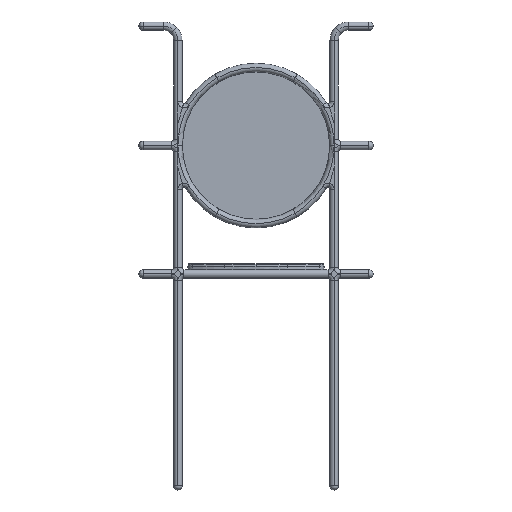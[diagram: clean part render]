
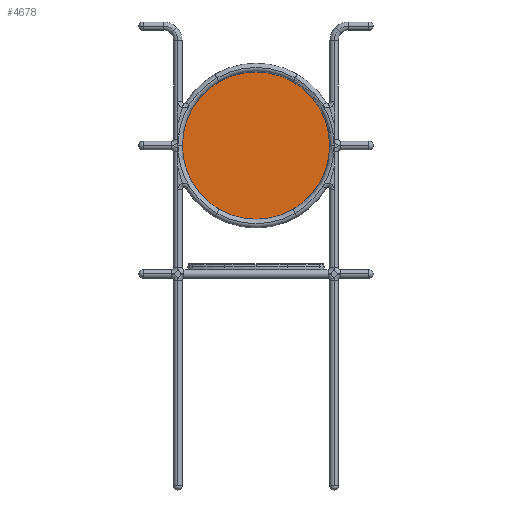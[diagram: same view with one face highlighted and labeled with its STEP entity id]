
A CAD part, top view. The second image highlights one B-rep face of the part: STEP entity #4678.
In plain terms, the highlighted planar face has unit normal (0, 0, 1).
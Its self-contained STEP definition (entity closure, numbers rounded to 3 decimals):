
#1037 = CARTESIAN_POINT ( 'NONE',  ( 0., 1435., 176.52 ) ) ;
#1252 = EDGE_LOOP ( 'NONE', ( #2636, #2317 ) ) ;
#1484 = CARTESIAN_POINT ( 'NONE',  ( -306.793, 1435., 176.52 ) ) ;
#1575 = DIRECTION ( 'NONE',  ( 1., 0., 0. ) ) ;
#2317 = ORIENTED_EDGE ( 'NONE', *, *, #10265, .T. ) ;
#2390 = DIRECTION ( 'NONE',  ( 0., 0., 1. ) ) ;
#2551 = CARTESIAN_POINT ( 'NONE',  ( 0., 1435., 176.52 ) ) ;
#2636 = ORIENTED_EDGE ( 'NONE', *, *, #5139, .T. ) ;
#3047 = CIRCLE ( 'NONE', #11068, 306.793 ) ;
#3413 = AXIS2_PLACEMENT_3D ( 'NONE', #11102, #2390, #9445 ) ;
#3451 = AXIS2_PLACEMENT_3D ( 'NONE', #2551, #10430, #1575 ) ;
#4134 = CARTESIAN_POINT ( 'NONE',  ( 306.793, 1435., 176.52 ) ) ;
#4678 = ADVANCED_FACE ( 'NONE', ( #11157 ), #8620, .T. ) ;
#5139 = EDGE_CURVE ( 'NONE', #6957, #9704, #3047, .T. ) ;
#6957 = VERTEX_POINT ( 'NONE', #1484 ) ;
#6985 = CIRCLE ( 'NONE', #3451, 306.793 ) ;
#7198 = DIRECTION ( 'NONE',  ( 0., 0., 1. ) ) ;
#8620 = PLANE ( 'NONE',  #3413 ) ;
#9445 = DIRECTION ( 'NONE',  ( 1., 0., 0. ) ) ;
#9704 = VERTEX_POINT ( 'NONE', #4134 ) ;
#9778 = DIRECTION ( 'NONE',  ( 1., 0., 0. ) ) ;
#10265 = EDGE_CURVE ( 'NONE', #9704, #6957, #6985, .T. ) ;
#10430 = DIRECTION ( 'NONE',  ( 0., 0., 1. ) ) ;
#11068 = AXIS2_PLACEMENT_3D ( 'NONE', #1037, #7198, #9778 ) ;
#11102 = CARTESIAN_POINT ( 'NONE',  ( 0., 1435., 176.52 ) ) ;
#11157 = FACE_OUTER_BOUND ( 'NONE', #1252, .T. ) ;
